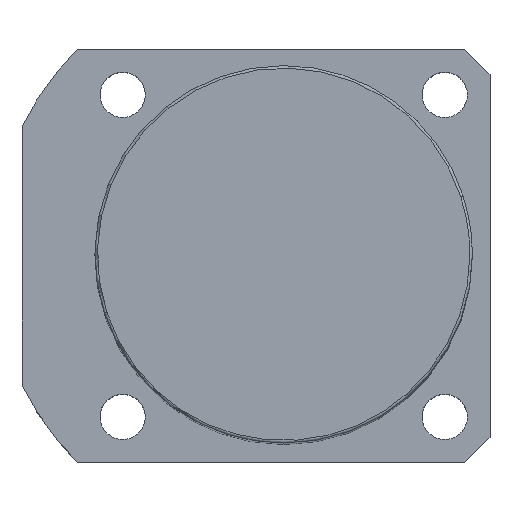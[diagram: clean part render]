
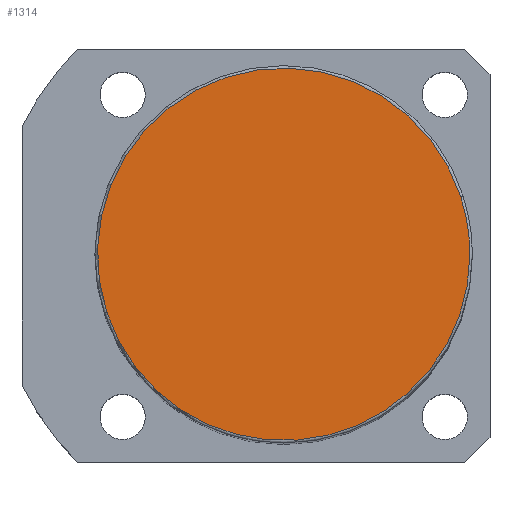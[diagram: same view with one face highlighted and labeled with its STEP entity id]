
A CAD part, top view. The second image highlights one B-rep face of the part: STEP entity #1314.
In plain terms, the highlighted planar face has unit normal (0, 0, 1).
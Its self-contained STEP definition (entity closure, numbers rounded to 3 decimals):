
#1280=CARTESIAN_POINT('',(37.0,0.0,188.0));
#1281=VERTEX_POINT('',#1280);
#1282=CARTESIAN_POINT('',(35.189,11.434,188.0));
#1283=VERTEX_POINT('',#1282);
#1284=CARTESIAN_POINT('',(0.0,0.0,188.0));
#1285=DIRECTION('',(0.0,0.0,1.0));
#1286=DIRECTION('',(1.0,0.0,0.0));
#1287=AXIS2_PLACEMENT_3D('',#1284,#1285,#1286);
#1288=CIRCLE('',#1287,37.0);
#1289=EDGE_CURVE('no 3989',#1281,#1283,#1288,.T.);
#1290=ORIENTED_EDGE('',*,*,#1289,.T.);
#1291=CARTESIAN_POINT('',(-35.189,-11.434,188.0));
#1292=VERTEX_POINT('',#1291);
#1293=CARTESIAN_POINT('',(0.0,0.0,188.0));
#1294=DIRECTION('',(0.0,0.0,1.0));
#1295=DIRECTION('',(1.0,0.0,0.0));
#1296=AXIS2_PLACEMENT_3D('',#1293,#1294,#1295);
#1297=CIRCLE('',#1296,37.0);
#1298=EDGE_CURVE('no 3995',#1283,#1292,#1297,.T.);
#1299=ORIENTED_EDGE('',*,*,#1298,.T.);
#1300=CARTESIAN_POINT('',(0.0,0.0,188.0));
#1301=DIRECTION('',(0.0,0.0,1.0));
#1302=DIRECTION('',(1.0,0.0,0.0));
#1303=AXIS2_PLACEMENT_3D('',#1300,#1301,#1302);
#1304=CIRCLE('',#1303,37.0);
#1305=EDGE_CURVE('no 3999',#1292,#1281,#1304,.T.);
#1306=ORIENTED_EDGE('',*,*,#1305,.T.);
#1307=EDGE_LOOP('',(#1290,#1299,#1306));
#1308=FACE_OUTER_BOUND('',#1307,.T.);
#1309=CARTESIAN_POINT('',(0.0,0.0,188.0));
#1310=DIRECTION('',(0.0,0.0,1.0));
#1311=DIRECTION('',(1.0,0.0,0.0));
#1312=AXIS2_PLACEMENT_3D('',#1309,#1310,#1311);
#1313=PLANE('',#1312);
#1314=ADVANCED_FACE('no 3980',(#1308),#1313,.T.);
